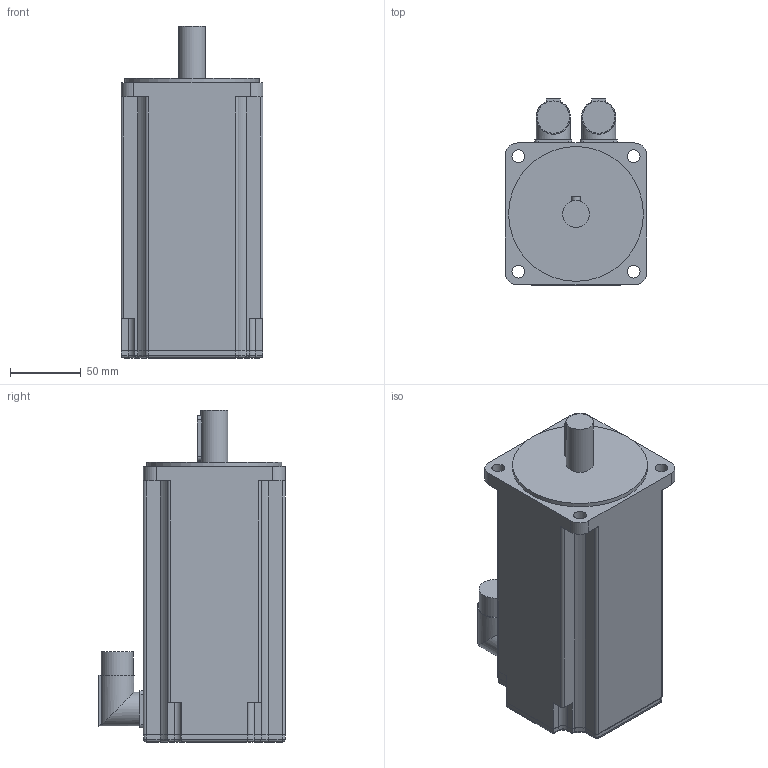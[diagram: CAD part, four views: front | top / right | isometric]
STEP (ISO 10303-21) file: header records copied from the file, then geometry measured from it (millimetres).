
FILE_DESCRIPTION(/* description */ (''),/* implementation_level */ '2;1');
FILE_NAME(/* name */ '\\Lafnas01\disegni\Archivi Lafert\3D\CAD 3D\MODELLI\Assiemi clienti\Serad\Modelli 3D Serad\B63Q\Resolver\Res Without Brake\B6308Qxx6A052033.ipt.stp',/* time_stamp */ '2015-09-07T10:51:23+02:00',/* author */ ('Pastrello Ylenia'),/* organization */ (''),/* preprocessor_version */ 'ST-DEVELOPER v15.6',/* originating_system */ 'Autodesk Inventor 2015',/* authorisation */ '');
FILE_SCHEMA (('AUTOMOTIVE_DESIGN { 1 0 10303 214 3 1 1 }'));
Length unit declared in the file: millimetre
Products named in the file (1): B6308Qxx6A052033
Bounding box: 100 x 131.5 x 234 mm (x, y, z)
Volume: 1807558.7 mm3; surface area: 106523.2 mm2
Topology: 1 solids, 1 shells, 162 faces, 420 edges, 270 vertices
Faces by surface type: plane 76, cylinder 74, torus 8, sphere 4
Full cylindrical faces by diameter (mm): 9 x4, 19 x1, 22.7 x2, 24 x2, 95 x1
Entity records: 5018 total; most frequent: CARTESIAN_POINT 973, DIRECTION 864, ORIENTED_EDGE 812, EDGE_CURVE 406, AXIS2_PLACEMENT_3D 305, VERTEX_POINT 266, LINE 254, VECTOR 254
